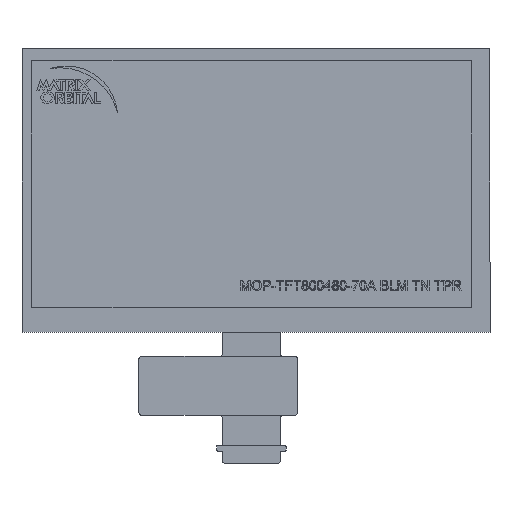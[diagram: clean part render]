
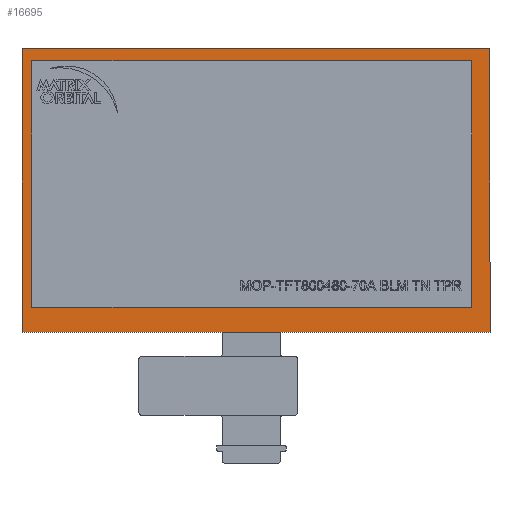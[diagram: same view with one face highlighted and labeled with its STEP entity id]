
A CAD part, top view. The second image highlights one B-rep face of the part: STEP entity #16695.
In plain terms, the highlighted planar face has unit normal (0, 0, 1).
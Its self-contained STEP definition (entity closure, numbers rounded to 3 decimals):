
#462 = PLANE ( 'NONE',  #11255 ) ;
#506 = LINE ( 'NONE', #14515, #19018 ) ;
#954 = EDGE_CURVE ( 'NONE', #23356, #13066, #10495, .T. ) ;
#1667 = DIRECTION ( 'NONE',  ( 1., 0., 0. ) ) ;
#2623 = VECTOR ( 'NONE', #5340, 1000. ) ;
#2641 = EDGE_CURVE ( 'NONE', #22025, #8949, #506, .T. ) ;
#2880 = VECTOR ( 'NONE', #24117, 1000. ) ;
#3719 = CARTESIAN_POINT ( 'NONE',  ( 77.54, -43.46, 4.07 ) ) ;
#3986 = FACE_OUTER_BOUND ( 'NONE', #21402, .T. ) ;
#4687 = CARTESIAN_POINT ( 'NONE',  ( -77.54, -43.46, 4.07 ) ) ;
#4966 = ORIENTED_EDGE ( 'NONE', *, *, #6754, .T. ) ;
#5029 = EDGE_CURVE ( 'NONE', #14712, #16172, #13397, .T. ) ;
#5030 = LINE ( 'NONE', #13074, #22010 ) ;
#5340 = DIRECTION ( 'NONE',  ( 0., -1., 0. ) ) ;
#5483 = ORIENTED_EDGE ( 'NONE', *, *, #24241, .T. ) ;
#6754 = EDGE_CURVE ( 'NONE', #23385, #15618, #19707, .T. ) ;
#6814 = DIRECTION ( 'NONE',  ( 0., 1., 0. ) ) ;
#7533 = CARTESIAN_POINT ( 'NONE',  ( 77.54, 43.46, 4.07 ) ) ;
#7792 = CARTESIAN_POINT ( 'NONE',  ( -81.01, -52.26, 4.07 ) ) ;
#8367 = DIRECTION ( 'NONE',  ( 1., 0., 0. ) ) ;
#8407 = DIRECTION ( 'NONE',  ( 0., 1., 0. ) ) ;
#8534 = LINE ( 'NONE', #14779, #21033 ) ;
#8949 = VERTEX_POINT ( 'NONE', #7533 ) ;
#9034 = CARTESIAN_POINT ( 'NONE',  ( 83.99, -52.26, 4.07 ) ) ;
#9060 = VECTOR ( 'NONE', #1667, 1000. ) ;
#9619 = EDGE_CURVE ( 'NONE', #13066, #23385, #5030, .T. ) ;
#10495 = LINE ( 'NONE', #18407, #2880 ) ;
#11255 = AXIS2_PLACEMENT_3D ( 'NONE', #22004, #20051, #8367 ) ;
#11908 = LINE ( 'NONE', #15676, #9060 ) ;
#12571 = DIRECTION ( 'NONE',  ( -1., 0., 0. ) ) ;
#12727 = ORIENTED_EDGE ( 'NONE', *, *, #954, .T. ) ;
#12850 = ORIENTED_EDGE ( 'NONE', *, *, #2641, .F. ) ;
#13066 = VERTEX_POINT ( 'NONE', #16533 ) ;
#13074 = CARTESIAN_POINT ( 'NONE',  ( -81.01, 47.74, 4.07 ) ) ;
#13397 = LINE ( 'NONE', #17642, #2623 ) ;
#13737 = EDGE_LOOP ( 'NONE', ( #22619, #14508, #12850, #17092 ) ) ;
#14508 = ORIENTED_EDGE ( 'NONE', *, *, #19552, .F. ) ;
#14515 = CARTESIAN_POINT ( 'NONE',  ( 77.54, 43.46, 4.07 ) ) ;
#14612 = LINE ( 'NONE', #22517, #22446 ) ;
#14712 = VERTEX_POINT ( 'NONE', #16196 ) ;
#14779 = CARTESIAN_POINT ( 'NONE',  ( -77.54, 43.46, 4.07 ) ) ;
#15618 = VERTEX_POINT ( 'NONE', #9034 ) ;
#15676 = CARTESIAN_POINT ( 'NONE',  ( -77.54, -43.46, 4.07 ) ) ;
#16172 = VERTEX_POINT ( 'NONE', #4687 ) ;
#16196 = CARTESIAN_POINT ( 'NONE',  ( -77.54, 43.46, 4.07 ) ) ;
#16533 = CARTESIAN_POINT ( 'NONE',  ( -81.01, 47.74, 4.07 ) ) ;
#16695 = ADVANCED_FACE ( 'NONE', ( #18237, #3986 ), #462, .T. ) ;
#17092 = ORIENTED_EDGE ( 'NONE', *, *, #19715, .F. ) ;
#17371 = CARTESIAN_POINT ( 'NONE',  ( -81.01, -52.26, 4.07 ) ) ;
#17642 = CARTESIAN_POINT ( 'NONE',  ( -77.54, 43.46, 4.07 ) ) ;
#18237 = FACE_BOUND ( 'NONE', #13737, .T. ) ;
#18407 = CARTESIAN_POINT ( 'NONE',  ( -81.01, 47.74, 4.07 ) ) ;
#19018 = VECTOR ( 'NONE', #8407, 1000. ) ;
#19244 = VECTOR ( 'NONE', #25431, 1000. ) ;
#19552 = EDGE_CURVE ( 'NONE', #8949, #14712, #8534, .T. ) ;
#19707 = LINE ( 'NONE', #17371, #19244 ) ;
#19715 = EDGE_CURVE ( 'NONE', #16172, #22025, #11908, .T. ) ;
#20051 = DIRECTION ( 'NONE',  ( 0., 0., 1. ) ) ;
#21033 = VECTOR ( 'NONE', #12571, 1000. ) ;
#21402 = EDGE_LOOP ( 'NONE', ( #22544, #4966, #5483, #12727 ) ) ;
#22004 = CARTESIAN_POINT ( 'NONE',  ( 0., 0., 4.07 ) ) ;
#22010 = VECTOR ( 'NONE', #24742, 1000. ) ;
#22025 = VERTEX_POINT ( 'NONE', #3719 ) ;
#22446 = VECTOR ( 'NONE', #6814, 1000. ) ;
#22517 = CARTESIAN_POINT ( 'NONE',  ( 83.99, 47.74, 4.07 ) ) ;
#22544 = ORIENTED_EDGE ( 'NONE', *, *, #9619, .T. ) ;
#22619 = ORIENTED_EDGE ( 'NONE', *, *, #5029, .F. ) ;
#23246 = CARTESIAN_POINT ( 'NONE',  ( 83.99, 47.74, 4.07 ) ) ;
#23356 = VERTEX_POINT ( 'NONE', #23246 ) ;
#23385 = VERTEX_POINT ( 'NONE', #7792 ) ;
#24117 = DIRECTION ( 'NONE',  ( -1., 0., 0. ) ) ;
#24241 = EDGE_CURVE ( 'NONE', #15618, #23356, #14612, .T. ) ;
#24742 = DIRECTION ( 'NONE',  ( 0., -1., 0. ) ) ;
#25431 = DIRECTION ( 'NONE',  ( 1., 0., 0. ) ) ;
